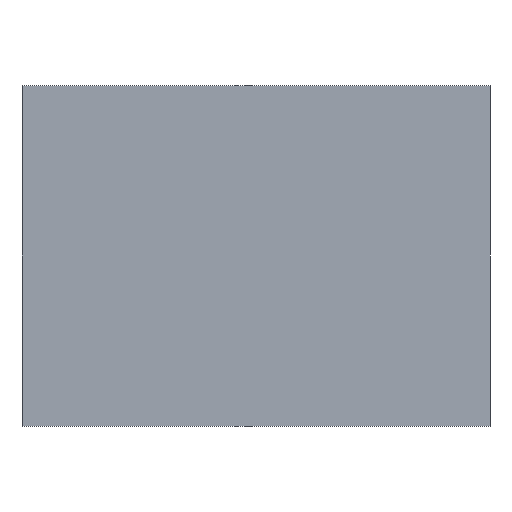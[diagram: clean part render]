
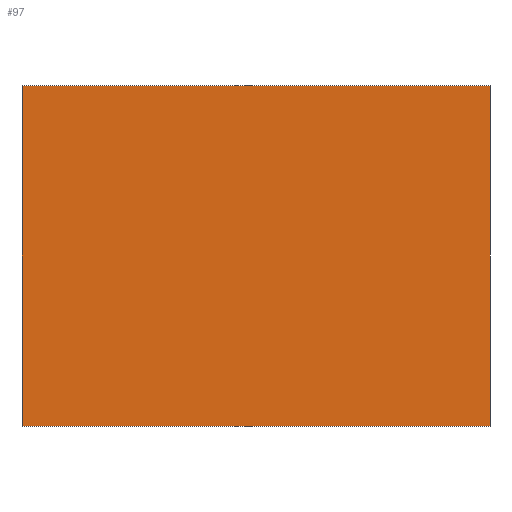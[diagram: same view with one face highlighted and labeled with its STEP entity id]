
A CAD part, front view. The second image highlights one B-rep face of the part: STEP entity #97.
In plain terms, the highlighted planar face has unit normal (0, -1, 0).
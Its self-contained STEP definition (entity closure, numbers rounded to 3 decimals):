
#21 = EDGE_CURVE('',#22,#24,#26,.T.);
#22 = VERTEX_POINT('',#23);
#23 = CARTESIAN_POINT('',(-5.5,-26.2,191.65));
#24 = VERTEX_POINT('',#25);
#25 = CARTESIAN_POINT('',(-5.5,-26.2,199.65));
#26 = LINE('',#27,#28);
#27 = CARTESIAN_POINT('',(-5.5,-26.2,191.65));
#28 = VECTOR('',#29,1.);
#29 = DIRECTION('',(0.,0.,1.));
#61 = EDGE_CURVE('',#62,#64,#66,.T.);
#62 = VERTEX_POINT('',#63);
#63 = CARTESIAN_POINT('',(5.5,-26.2,191.65));
#64 = VERTEX_POINT('',#65);
#65 = CARTESIAN_POINT('',(5.5,-26.2,199.65));
#66 = LINE('',#67,#68);
#67 = CARTESIAN_POINT('',(5.5,-26.2,191.65));
#68 = VECTOR('',#69,1.);
#69 = DIRECTION('',(0.,0.,1.));
#97 = ADVANCED_FACE('',(#98),#114,.F.);
#98 = FACE_BOUND('',#99,.F.);
#99 = EDGE_LOOP('',(#100,#106,#107,#113));
#100 = ORIENTED_EDGE('',*,*,#101,.F.);
#101 = EDGE_CURVE('',#22,#62,#102,.T.);
#102 = LINE('',#103,#104);
#103 = CARTESIAN_POINT('',(-5.5,-26.2,191.65));
#104 = VECTOR('',#105,1.);
#105 = DIRECTION('',(1.,0.,0.));
#106 = ORIENTED_EDGE('',*,*,#21,.T.);
#107 = ORIENTED_EDGE('',*,*,#108,.T.);
#108 = EDGE_CURVE('',#24,#64,#109,.T.);
#109 = LINE('',#110,#111);
#110 = CARTESIAN_POINT('',(-5.5,-26.2,199.65));
#111 = VECTOR('',#112,1.);
#112 = DIRECTION('',(1.,0.,0.));
#113 = ORIENTED_EDGE('',*,*,#61,.F.);
#114 = PLANE('',#115);
#115 = AXIS2_PLACEMENT_3D('',#116,#117,#118);
#116 = CARTESIAN_POINT('',(-5.5,-26.2,191.65));
#117 = DIRECTION('',(0.,1.,0.));
#118 = DIRECTION('',(0.,0.,1.));
